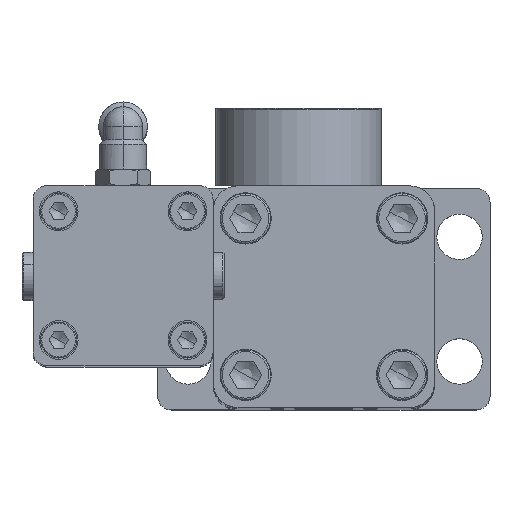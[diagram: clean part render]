
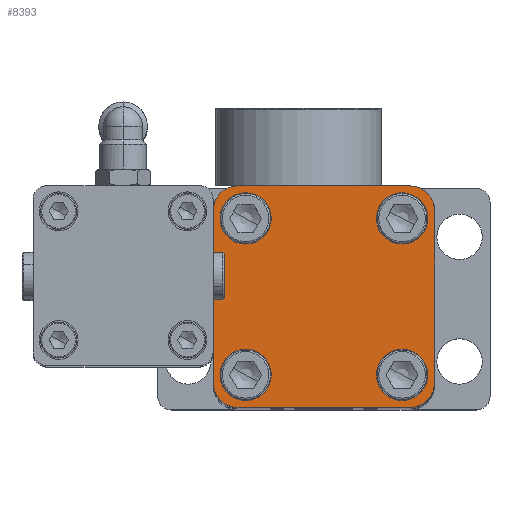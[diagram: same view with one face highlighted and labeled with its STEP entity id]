
A CAD part, top view. The second image highlights one B-rep face of the part: STEP entity #8393.
In plain terms, the highlighted planar face has unit normal (0, 0, 1).
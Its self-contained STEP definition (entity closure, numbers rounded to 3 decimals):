
#8047=CARTESIAN_POINT('Axis2P3D Location',(-31.,31.,954.)) ;
#8051=CARTESIAN_POINT('Vertex',(-40.,31.,954.)) ;
#8053=CARTESIAN_POINT('Vertex',(-31.,40.,954.)) ;
#8093=CARTESIAN_POINT('Vertex',(31.,40.,954.)) ;
#8101=CARTESIAN_POINT('Line Origine',(0.,40.,954.)) ;
#8118=CARTESIAN_POINT('Axis2P3D Location',(31.,31.,954.)) ;
#8122=CARTESIAN_POINT('Vertex',(40.,31.,954.)) ;
#8155=CARTESIAN_POINT('Vertex',(40.,-31.,954.)) ;
#8163=CARTESIAN_POINT('Line Origine',(40.,0.,954.)) ;
#8180=CARTESIAN_POINT('Axis2P3D Location',(31.,-31.,954.)) ;
#8184=CARTESIAN_POINT('Vertex',(31.,-40.,954.)) ;
#8217=CARTESIAN_POINT('Vertex',(-40.,-31.,954.)) ;
#8220=CARTESIAN_POINT('Line Origine',(-40.,0.,954.)) ;
#8248=CARTESIAN_POINT('Vertex',(-31.,-40.,954.)) ;
#8256=CARTESIAN_POINT('Line Origine',(0.,-40.,954.)) ;
#8294=CARTESIAN_POINT('Axis2P3D Location',(-31.,-31.,954.)) ;
#8306=CARTESIAN_POINT('Axis2P3D Location',(0.,0.,954.)) ;
#8321=CARTESIAN_POINT('Axis2P3D Location',(28.25,28.25,954.)) ;
#8325=CARTESIAN_POINT('Vertex',(37.5,28.25,954.)) ;
#8327=CARTESIAN_POINT('Vertex',(19.,28.25,954.)) ;
#8330=CARTESIAN_POINT('Axis2P3D Location',(28.25,28.25,954.)) ;
#8339=CARTESIAN_POINT('Axis2P3D Location',(-28.25,28.25,954.)) ;
#8343=CARTESIAN_POINT('Vertex',(-19.,28.25,954.)) ;
#8345=CARTESIAN_POINT('Vertex',(-37.5,28.25,954.)) ;
#8348=CARTESIAN_POINT('Axis2P3D Location',(-28.25,28.25,954.)) ;
#8357=CARTESIAN_POINT('Axis2P3D Location',(-28.25,-28.25,954.)) ;
#8361=CARTESIAN_POINT('Vertex',(-19.,-28.25,954.)) ;
#8363=CARTESIAN_POINT('Vertex',(-37.5,-28.25,954.)) ;
#8366=CARTESIAN_POINT('Axis2P3D Location',(-28.25,-28.25,954.)) ;
#8375=CARTESIAN_POINT('Axis2P3D Location',(28.25,-28.25,954.)) ;
#8379=CARTESIAN_POINT('Vertex',(37.5,-28.25,954.)) ;
#8381=CARTESIAN_POINT('Vertex',(19.,-28.25,954.)) ;
#8384=CARTESIAN_POINT('Axis2P3D Location',(28.25,-28.25,954.)) ;
#8048=DIRECTION('Axis2P3D Direction',(0.,0.,1.)) ;
#8102=DIRECTION('Vector Direction',(1.,0.,0.)) ;
#8119=DIRECTION('Axis2P3D Direction',(0.,-0.,1.)) ;
#8164=DIRECTION('Vector Direction',(0.,-1.,0.)) ;
#8181=DIRECTION('Axis2P3D Direction',(0.,0.,1.)) ;
#8221=DIRECTION('Vector Direction',(0.,1.,0.)) ;
#8257=DIRECTION('Vector Direction',(-1.,0.,0.)) ;
#8295=DIRECTION('Axis2P3D Direction',(0.,0.,1.)) ;
#8307=DIRECTION('Axis2P3D Direction',(0.,0.,1.)) ;
#8308=DIRECTION('Axis2P3D XDirection',(1.,0.,0.)) ;
#8322=DIRECTION('Axis2P3D Direction',(0.,0.,1.)) ;
#8331=DIRECTION('Axis2P3D Direction',(0.,0.,1.)) ;
#8340=DIRECTION('Axis2P3D Direction',(0.,0.,1.)) ;
#8349=DIRECTION('Axis2P3D Direction',(0.,0.,1.)) ;
#8358=DIRECTION('Axis2P3D Direction',(0.,0.,1.)) ;
#8367=DIRECTION('Axis2P3D Direction',(0.,0.,1.)) ;
#8376=DIRECTION('Axis2P3D Direction',(0.,0.,1.)) ;
#8385=DIRECTION('Axis2P3D Direction',(0.,0.,1.)) ;
#8049=AXIS2_PLACEMENT_3D('Circle Axis2P3D',#8047,#8048,$) ;
#8120=AXIS2_PLACEMENT_3D('Circle Axis2P3D',#8118,#8119,$) ;
#8182=AXIS2_PLACEMENT_3D('Circle Axis2P3D',#8180,#8181,$) ;
#8296=AXIS2_PLACEMENT_3D('Circle Axis2P3D',#8294,#8295,$) ;
#8309=AXIS2_PLACEMENT_3D('Plane Axis2P3D',#8306,#8307,#8308) ;
#8323=AXIS2_PLACEMENT_3D('Circle Axis2P3D',#8321,#8322,$) ;
#8332=AXIS2_PLACEMENT_3D('Circle Axis2P3D',#8330,#8331,$) ;
#8341=AXIS2_PLACEMENT_3D('Circle Axis2P3D',#8339,#8340,$) ;
#8350=AXIS2_PLACEMENT_3D('Circle Axis2P3D',#8348,#8349,$) ;
#8359=AXIS2_PLACEMENT_3D('Circle Axis2P3D',#8357,#8358,$) ;
#8368=AXIS2_PLACEMENT_3D('Circle Axis2P3D',#8366,#8367,$) ;
#8377=AXIS2_PLACEMENT_3D('Circle Axis2P3D',#8375,#8376,$) ;
#8386=AXIS2_PLACEMENT_3D('Circle Axis2P3D',#8384,#8385,$) ;
#8312=ORIENTED_EDGE('',*,*,#8260,.T.) ;
#8313=ORIENTED_EDGE('',*,*,#8186,.F.) ;
#8314=ORIENTED_EDGE('',*,*,#8167,.T.) ;
#8315=ORIENTED_EDGE('',*,*,#8124,.F.) ;
#8316=ORIENTED_EDGE('',*,*,#8105,.T.) ;
#8317=ORIENTED_EDGE('',*,*,#8055,.F.) ;
#8318=ORIENTED_EDGE('',*,*,#8224,.T.) ;
#8319=ORIENTED_EDGE('',*,*,#8298,.F.) ;
#8336=ORIENTED_EDGE('',*,*,#8329,.F.) ;
#8337=ORIENTED_EDGE('',*,*,#8334,.F.) ;
#8354=ORIENTED_EDGE('',*,*,#8347,.F.) ;
#8355=ORIENTED_EDGE('',*,*,#8352,.F.) ;
#8372=ORIENTED_EDGE('',*,*,#8365,.F.) ;
#8373=ORIENTED_EDGE('',*,*,#8370,.F.) ;
#8390=ORIENTED_EDGE('',*,*,#8383,.F.) ;
#8391=ORIENTED_EDGE('',*,*,#8388,.F.) ;
#8338=FACE_BOUND('',#8335,.T.) ;
#8356=FACE_BOUND('',#8353,.T.) ;
#8374=FACE_BOUND('',#8371,.T.) ;
#8392=FACE_BOUND('',#8389,.T.) ;
#8103=VECTOR('Line Direction',#8102,1.) ;
#8165=VECTOR('Line Direction',#8164,1.) ;
#8222=VECTOR('Line Direction',#8221,1.) ;
#8258=VECTOR('Line Direction',#8257,1.) ;
#8393=ADVANCED_FACE('PartBody',(#8320,#8338,#8356,#8374,#8392),#8310,.T.) ;
#8050=CIRCLE('generated circle',#8049,9.) ;
#8121=CIRCLE('generated circle',#8120,9.) ;
#8183=CIRCLE('generated circle',#8182,9.) ;
#8297=CIRCLE('generated circle',#8296,9.) ;
#8324=CIRCLE('generated circle',#8323,9.25) ;
#8333=CIRCLE('generated circle',#8332,9.25) ;
#8342=CIRCLE('generated circle',#8341,9.25) ;
#8351=CIRCLE('generated circle',#8350,9.25) ;
#8360=CIRCLE('generated circle',#8359,9.25) ;
#8369=CIRCLE('generated circle',#8368,9.25) ;
#8378=CIRCLE('generated circle',#8377,9.25) ;
#8387=CIRCLE('generated circle',#8386,9.25) ;
#8055=EDGE_CURVE('',#8052,#8054,#8050,.F.) ;
#8105=EDGE_CURVE('',#8094,#8054,#8104,.F.) ;
#8124=EDGE_CURVE('',#8094,#8123,#8121,.F.) ;
#8167=EDGE_CURVE('',#8156,#8123,#8166,.F.) ;
#8186=EDGE_CURVE('',#8156,#8185,#8183,.F.) ;
#8224=EDGE_CURVE('',#8052,#8218,#8223,.F.) ;
#8260=EDGE_CURVE('',#8249,#8185,#8259,.F.) ;
#8298=EDGE_CURVE('',#8249,#8218,#8297,.F.) ;
#8329=EDGE_CURVE('',#8326,#8328,#8324,.T.) ;
#8334=EDGE_CURVE('',#8328,#8326,#8333,.T.) ;
#8347=EDGE_CURVE('',#8344,#8346,#8342,.T.) ;
#8352=EDGE_CURVE('',#8346,#8344,#8351,.T.) ;
#8365=EDGE_CURVE('',#8362,#8364,#8360,.T.) ;
#8370=EDGE_CURVE('',#8364,#8362,#8369,.T.) ;
#8383=EDGE_CURVE('',#8380,#8382,#8378,.T.) ;
#8388=EDGE_CURVE('',#8382,#8380,#8387,.T.) ;
#8311=EDGE_LOOP('',(#8312,#8313,#8314,#8315,#8316,#8317,#8318,#8319)) ;
#8335=EDGE_LOOP('',(#8336,#8337)) ;
#8353=EDGE_LOOP('',(#8354,#8355)) ;
#8371=EDGE_LOOP('',(#8372,#8373)) ;
#8389=EDGE_LOOP('',(#8390,#8391)) ;
#8320=FACE_OUTER_BOUND('',#8311,.T.) ;
#8104=LINE('Line',#8101,#8103) ;
#8166=LINE('Line',#8163,#8165) ;
#8223=LINE('Line',#8220,#8222) ;
#8259=LINE('Line',#8256,#8258) ;
#8310=PLANE('',#8309) ;
#8052=VERTEX_POINT('',#8051) ;
#8054=VERTEX_POINT('',#8053) ;
#8094=VERTEX_POINT('',#8093) ;
#8123=VERTEX_POINT('',#8122) ;
#8156=VERTEX_POINT('',#8155) ;
#8185=VERTEX_POINT('',#8184) ;
#8218=VERTEX_POINT('',#8217) ;
#8249=VERTEX_POINT('',#8248) ;
#8326=VERTEX_POINT('',#8325) ;
#8328=VERTEX_POINT('',#8327) ;
#8344=VERTEX_POINT('',#8343) ;
#8346=VERTEX_POINT('',#8345) ;
#8362=VERTEX_POINT('',#8361) ;
#8364=VERTEX_POINT('',#8363) ;
#8380=VERTEX_POINT('',#8379) ;
#8382=VERTEX_POINT('',#8381) ;
